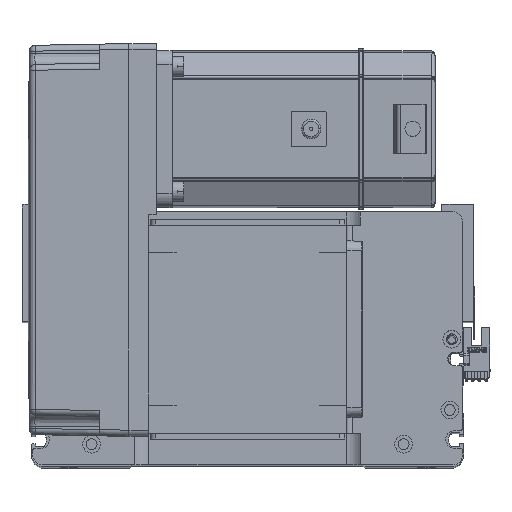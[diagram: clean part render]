
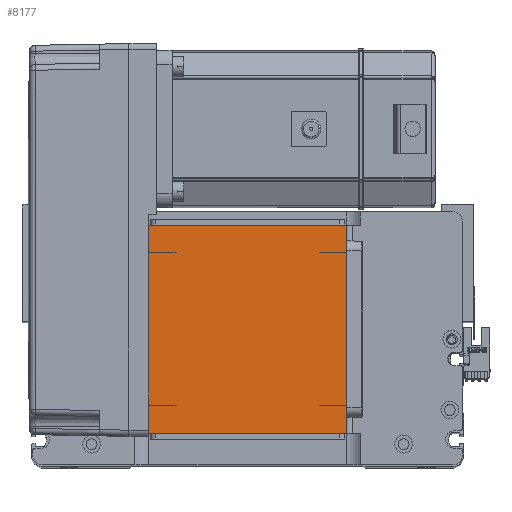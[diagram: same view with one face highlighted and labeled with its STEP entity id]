
A CAD part, top view. The second image highlights one B-rep face of the part: STEP entity #8177.
In plain terms, the highlighted planar face has unit normal (0, 0, 1).
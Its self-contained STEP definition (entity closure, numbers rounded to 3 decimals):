
#1836 = EDGE_CURVE ( 'NONE', #21907, #21645, #9924, .T. ) ;
#4415 = VERTEX_POINT ( 'NONE', #14638 ) ;
#4459 = DIRECTION ( 'NONE',  ( 0., 0., 1. ) ) ;
#8177 = ADVANCED_FACE ( 'NONE', ( #14830 ), #27622, .T. ) ;
#9809 = LINE ( 'NONE', #49398, #20775 ) ;
#9924 = LINE ( 'NONE', #43213, #16019 ) ;
#13317 = LINE ( 'NONE', #39825, #48288 ) ;
#14472 = EDGE_CURVE ( 'NONE', #21645, #4415, #13317, .T. ) ;
#14638 = CARTESIAN_POINT ( 'NONE',  ( -50.5, 16., 115. ) ) ;
#14830 = FACE_OUTER_BOUND ( 'NONE', #46386, .T. ) ;
#16019 = VECTOR ( 'NONE', #43046, 1000. ) ;
#16153 = CARTESIAN_POINT ( 'NONE',  ( 0., 0., 115. ) ) ;
#16780 = DIRECTION ( 'NONE',  ( 0., -1., 0. ) ) ;
#17779 = LINE ( 'NONE', #30912, #40047 ) ;
#20775 = VECTOR ( 'NONE', #26300, 1000. ) ;
#21645 = VERTEX_POINT ( 'NONE', #31825 ) ;
#21907 = VERTEX_POINT ( 'NONE', #42350 ) ;
#26069 = ORIENTED_EDGE ( 'NONE', *, *, #1836, .T. ) ;
#26300 = DIRECTION ( 'NONE',  ( 0., 1., 0. ) ) ;
#27385 = ORIENTED_EDGE ( 'NONE', *, *, #36468, .T. ) ;
#27622 = PLANE ( 'NONE',  #35937 ) ;
#27691 = DIRECTION ( 'NONE',  ( 1., 0., 0. ) ) ;
#30912 = CARTESIAN_POINT ( 'NONE',  ( -50.5, 16., 115. ) ) ;
#31825 = CARTESIAN_POINT ( 'NONE',  ( -50.5, 122., 115. ) ) ;
#31858 = DIRECTION ( 'NONE',  ( 1., 0., 0. ) ) ;
#35427 = CARTESIAN_POINT ( 'NONE',  ( 50.5, 16., 115. ) ) ;
#35937 = AXIS2_PLACEMENT_3D ( 'NONE', #16153, #4459, #31858 ) ;
#36468 = EDGE_CURVE ( 'NONE', #37352, #21907, #9809, .T. ) ;
#37352 = VERTEX_POINT ( 'NONE', #35427 ) ;
#38107 = ORIENTED_EDGE ( 'NONE', *, *, #14472, .T. ) ;
#39825 = CARTESIAN_POINT ( 'NONE',  ( -50.5, 122., 115. ) ) ;
#40047 = VECTOR ( 'NONE', #27691, 1000. ) ;
#42350 = CARTESIAN_POINT ( 'NONE',  ( 50.5, 122., 115. ) ) ;
#43046 = DIRECTION ( 'NONE',  ( -1., 0., 0. ) ) ;
#43213 = CARTESIAN_POINT ( 'NONE',  ( -50.5, 122., 115. ) ) ;
#43638 = ORIENTED_EDGE ( 'NONE', *, *, #44023, .T. ) ;
#44023 = EDGE_CURVE ( 'NONE', #4415, #37352, #17779, .T. ) ;
#46386 = EDGE_LOOP ( 'NONE', ( #38107, #43638, #27385, #26069 ) ) ;
#48288 = VECTOR ( 'NONE', #16780, 1000. ) ;
#49398 = CARTESIAN_POINT ( 'NONE',  ( 50.5, 122., 115. ) ) ;
